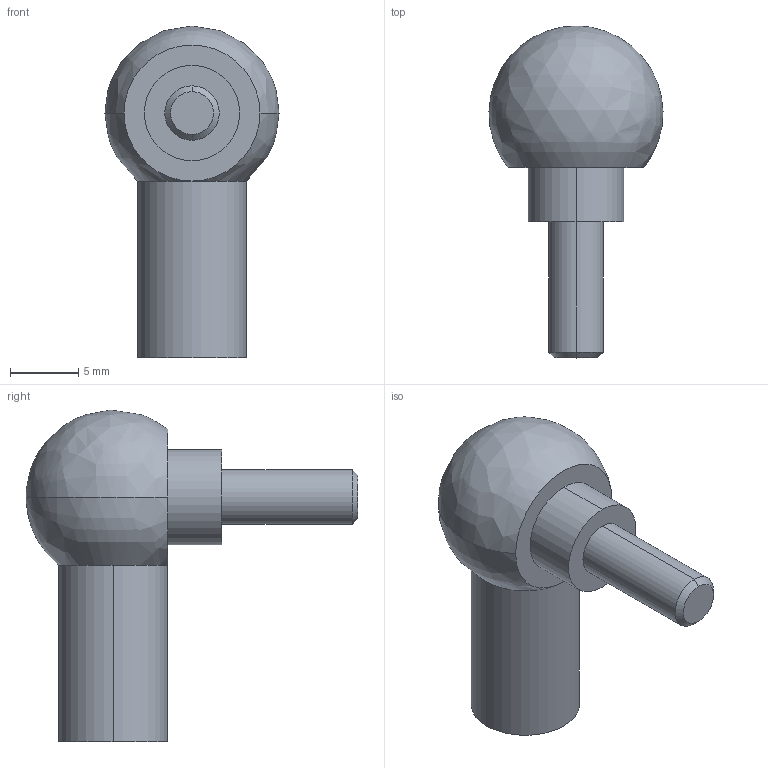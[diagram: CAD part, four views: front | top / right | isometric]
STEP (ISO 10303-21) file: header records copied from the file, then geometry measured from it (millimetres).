
FILE_DESCRIPTION (( 'STEP AP214' ), '1' );
FILE_NAME ('13.CS8M3.5M4.STEP', '2017-10-27T13:20:07', ( '' ), ( '' ), 'SwSTEP 2.0', 'SolidWorks 2016', '' );
FILE_SCHEMA (( 'AUTOMOTIVE_DESIGN' ));
Length unit declared in the file: millimetre
Products named in the file (1): 13.CS8M3.5M4
Bounding box: 12.8 x 24.4 x 24.4 mm (x, y, z)
Volume: 1836.1 mm3; surface area: 1099.1 mm2
Topology: 1 solids, 1 shells, 20 faces, 44 edges, 25 vertices
Faces by surface type: cylinder 8, cone 6, plane 4, bspline 2
Entity records: 586 total; most frequent: CARTESIAN_POINT 116, DIRECTION 104, ORIENTED_EDGE 80, AXIS2_PLACEMENT_3D 45, EDGE_CURVE 40, CIRCLE 26, VERTEX_POINT 25, EDGE_LOOP 23
